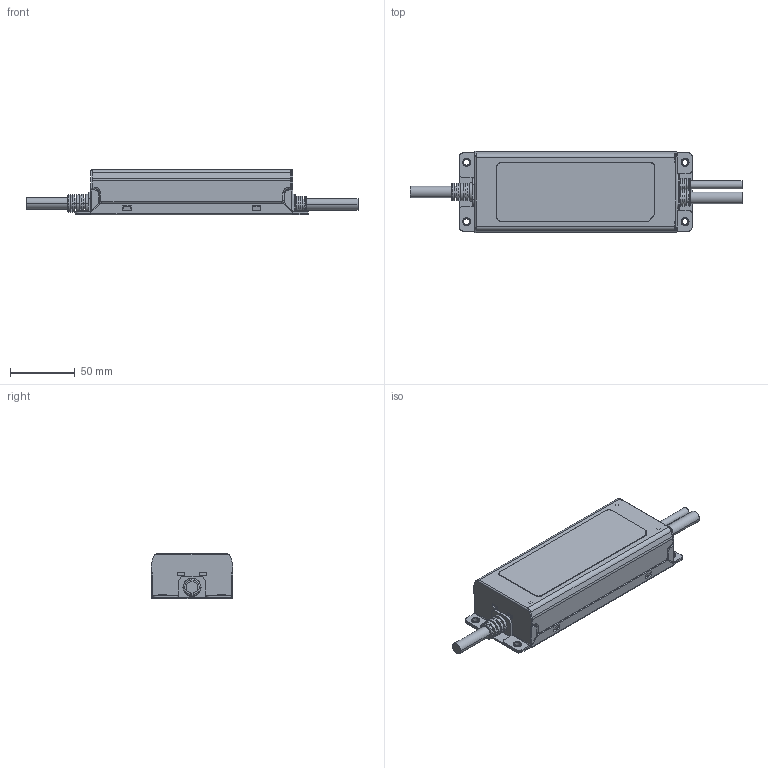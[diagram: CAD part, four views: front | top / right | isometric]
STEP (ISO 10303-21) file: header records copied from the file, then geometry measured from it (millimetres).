
FILE_DESCRIPTION(('Creo Elements/Direct Modeling STEP Export'),'2;1');
FILE_NAME('ELG-75-B.stp','2016-04-07T16:32:04',(''),(''),'PTC Creo Elements/Direct Modeling STEP processor for AP214 (Solid Model)','PTC Creo Elements/Direct Modeling 19.0 09-May-2014 (C) Parametric Technology GmbH','');
FILE_SCHEMA(('AUTOMOTIVE_DESIGN { 1 0 10303 214 1 1 1 1 }'));
Length unit declared in the file: millimetre
Products named in the file (6): op.1.2; IP.1.1; op.1; 243A-T; pcb; ELG-75-B
Assembly tree (5 placements, depth 2):
  ELG-75-B
    pcb
    243A-T
    op.1
    IP.1.1
    op.1.2
Bounding box: 256.8 x 63.13 x 35.5 mm (x, y, z)
Volume: 76835.3 mm3; surface area: 103326.2 mm2
Topology: 5 solids, 5 shells, 710 faces, 1873 edges, 1200 vertices
Faces by surface type: plane 383, cylinder 263, torus 48, bspline 10, cone 4, sphere 2
Entity records: 25371 total; most frequent: CARTESIAN_POINT 7895, ORIENTED_EDGE 3742, DIRECTION 3484, EDGE_CURVE 1871, VERTEX_POINT 1200, AXIS2_PLACEMENT_3D 1179, VECTOR 1126, LINE 1126
